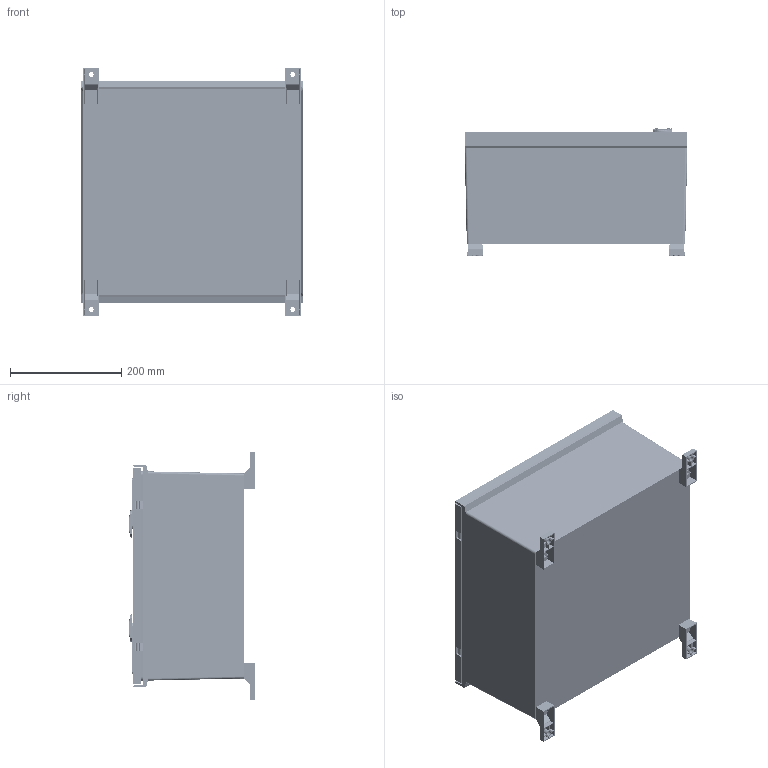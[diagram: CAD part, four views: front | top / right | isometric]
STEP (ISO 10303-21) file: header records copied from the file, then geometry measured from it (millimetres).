
FILE_DESCRIPTION (( 'STEP AP203' ), '1' );
FILE_NAME ('CN5N0442 simple.STEP', '2026-07-08T13:05:45', ( '' ), ( '' ), 'SwSTEP 2.0', 'SolidWorks 2022', '' );
FILE_SCHEMA (( 'CONFIG_CONTROL_DESIGN' ));
Products named in the file (1): CN5N0442 simple
Bounding box: 400 x 227.44 x 445.7 mm (x, y, z)
Volume: 2207160 mm3; surface area: 1477395.5 mm2
Topology: 52 solids, 56 shells, 8742 faces, 21669 edges, 13453 vertices
Faces by surface type: plane 4181, cylinder 2265, cone 890, bspline 849, torus 372, sphere 185
Entity records: 348676 total; most frequent: CARTESIAN_POINT 149345, ORIENTED_EDGE 42882, DIRECTION 38414, EDGE_CURVE 21441, VERTEX_POINT 13444, AXIS2_PLACEMENT_3D 12929, VECTOR 12556, LINE 12556
